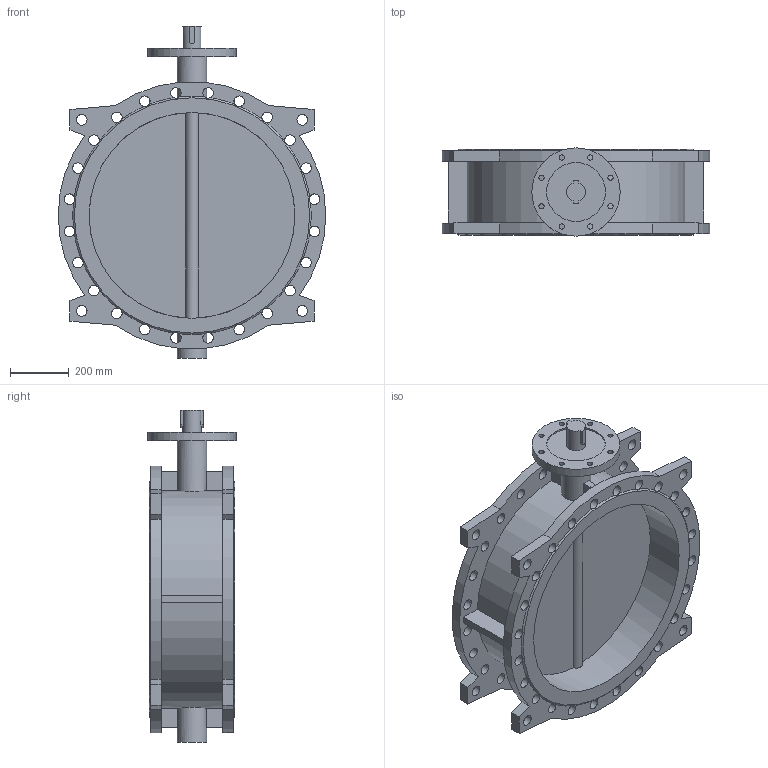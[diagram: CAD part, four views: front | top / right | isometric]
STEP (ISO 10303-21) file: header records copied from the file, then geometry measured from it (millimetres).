
FILE_DESCRIPTION(('STEP AP203'), '1');
FILE_NAME('Çàòâîð 021F.Y DN700 PN10_16 ïîä ÝÏ', '', ('UNSPECIFIED'), ('UNSPECIFIED'), 'ASCON STEP Converter 1.6', 'ASCON Math Kernel', '');
FILE_SCHEMA(('CONFIG_CONTROL_DESIGN'));
Length unit declared in the file: millimetre
Bounding box: 910 x 300 x 1129 mm (x, y, z)
Volume: 42023852.8 mm3; surface area: 3699524.5 mm2
Topology: 1 solids, 1 shells, 152 faces, 567 edges, 378 vertices
Faces by surface type: cylinder 87, plane 63, cone 2
Full cylindrical faces by diameter (mm): 18 x8, 36 x56, 63.4 x1, 100 x2, 200 x1, 300 x1, 700 x2
Entity records: 11996 total; most frequent: CARTESIAN_POINT 5994, ORIENTED_EDGE 988, DIRECTION 918, EDGE_CURVE 494, AXIS2_PLACEMENT_3D 380, VERTEX_POINT 378, EDGE_LOOP 314, CIRCLE 227
